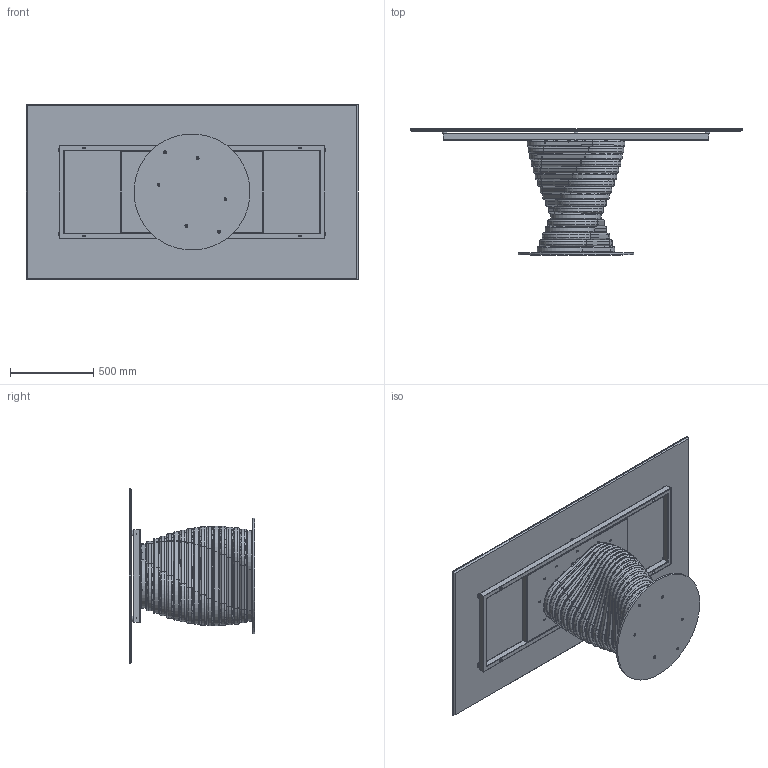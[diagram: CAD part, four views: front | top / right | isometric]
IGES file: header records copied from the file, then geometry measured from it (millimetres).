
Start section: SolidWorks IGES file using analytic representation for surfaces
Global section: file name: Y:\eforma\TECNICO\SOLIDWORKS\E-FORMA\1-TAVOLI\ROTOLO\02 parts\RO21C.IGS; native system: SolidWorks 2022; preprocessor: SolidWorks 2022; author: eforma.tech; date: 240807.153751; units: millimetre
Bounding box: 2000 x 758 x 1060 mm (x, y, z)
Volume: 46922311.4 mm3; surface area: 16402737.9 mm2
Topology: 99 solids, 99 shells, 1510 faces, 3584 edges, 2246 vertices
Faces by surface type: revolution 882, plane 628
